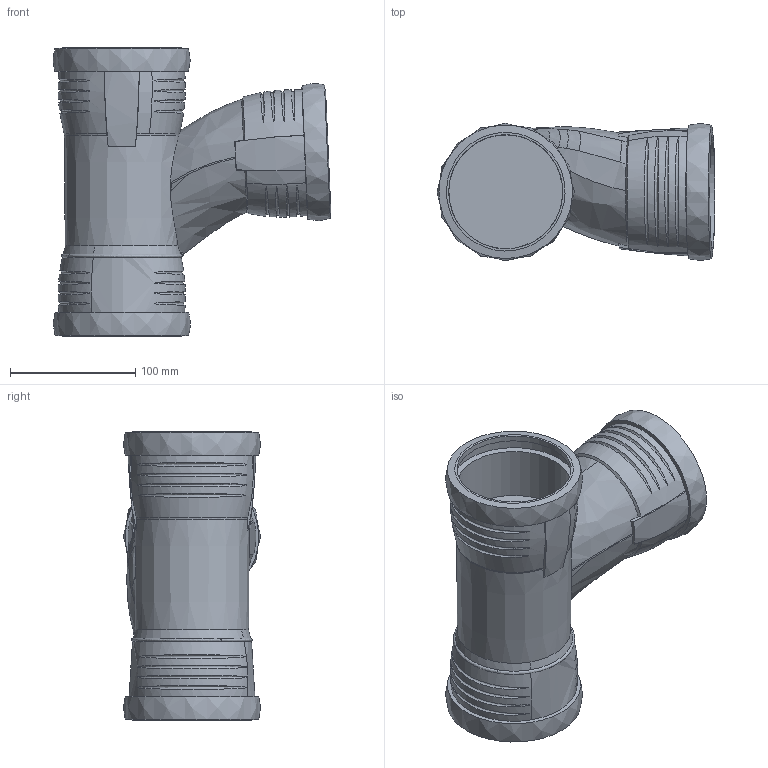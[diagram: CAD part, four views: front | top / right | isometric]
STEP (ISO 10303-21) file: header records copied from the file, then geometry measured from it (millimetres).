
FILE_DESCRIPTION(/* description */ (''),/* implementation_level */ '2;1');
FILE_NAME(/* name */ 'C:\Planerdaten\Export PLA\393.442.14.1\stp\393442.stp',/* time_stamp */ '2022-09-16T14:45:39+02:00',/* author */ ('JANAN'),/* organization */ (''),/* preprocessor_version */ 'ST-DEVELOPER v18.1',/* originating_system */ 'Autodesk Inventor 2021',/* authorisation */ '');
FILE_SCHEMA (('AUTOMOTIVE_DESIGN { 1 0 10303 214 3 1 1 }'));
Length unit declared in the file: millimetre
Products named in the file (1): tmp7CFD.tmp
Bounding box: 221.66 x 109.5 x 230 mm (x, y, z)
Volume: 1487845.6 mm3; surface area: 196212.2 mm2
Topology: 1 solids, 1 shells, 116 faces, 284 edges, 194 vertices
Faces by surface type: bspline 80, cone 19, cylinder 9, plane 6, torus 2
Full cylindrical faces by diameter (mm): 90.9 x3, 91.2 x3, 100.2 x3
Entity records: 18355 total; most frequent: CARTESIAN_POINT 15935, ORIENTED_EDGE 564, DIRECTION 301, EDGE_CURVE 282, VERTEX_POINT 195, B_SPLINE_CURVE_WITH_KNOTS 155, EDGE_LOOP 143, AXIS2_PLACEMENT_3D 137
